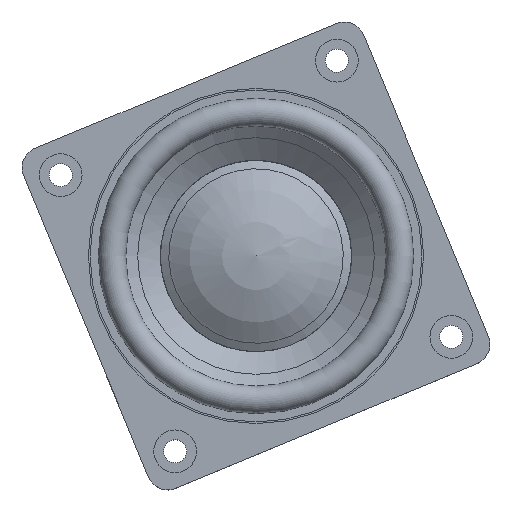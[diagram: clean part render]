
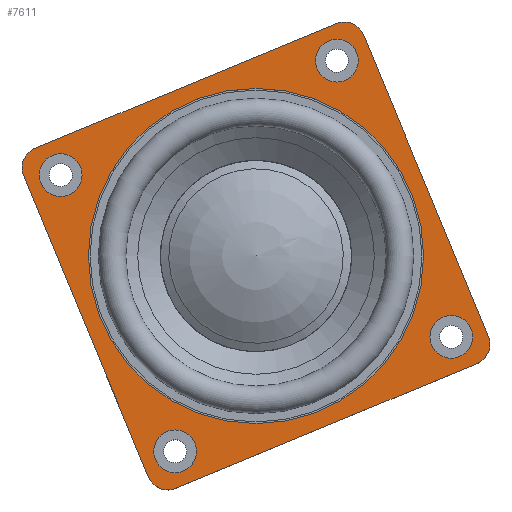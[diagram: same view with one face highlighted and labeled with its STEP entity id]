
A CAD part, top view. The second image highlights one B-rep face of the part: STEP entity #7611.
In plain terms, the highlighted planar face has unit normal (0, 0, 1).
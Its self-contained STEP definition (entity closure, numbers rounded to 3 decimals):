
#523=FACE_BOUND('',#1295,.T.);
#524=FACE_BOUND('',#1296,.T.);
#525=FACE_BOUND('',#1297,.T.);
#526=FACE_BOUND('',#1298,.T.);
#527=FACE_BOUND('',#1299,.T.);
#837=FACE_OUTER_BOUND('',#1294,.T.);
#1294=EDGE_LOOP('',(#6692,#6693,#6694,#6695,#6696,#6697,#6698,#6699));
#1295=EDGE_LOOP('',(#6700));
#1296=EDGE_LOOP('',(#6701));
#1297=EDGE_LOOP('',(#6702));
#1298=EDGE_LOOP('',(#6703));
#1299=EDGE_LOOP('',(#6704));
#1870=LINE('',#14616,#2434);
#1871=LINE('',#14620,#2435);
#1872=LINE('',#14624,#2436);
#1873=LINE('',#14627,#2437);
#2434=VECTOR('',#10287,49.65);
#2435=VECTOR('',#10290,49.65);
#2436=VECTOR('',#10293,49.65);
#2437=VECTOR('',#10296,49.65);
#2839=CIRCLE('',#8375,25.5);
#2840=CIRCLE('',#8377,3.175);
#2841=CIRCLE('',#8378,3.175);
#2842=CIRCLE('',#8379,3.175);
#2843=CIRCLE('',#8380,3.175);
#2844=CIRCLE('',#8381,3.25);
#2845=CIRCLE('',#8382,3.25);
#2846=CIRCLE('',#8383,3.25);
#2847=CIRCLE('',#8384,3.25);
#3575=VERTEX_POINT('',#14608);
#3576=VERTEX_POINT('',#14612);
#3577=VERTEX_POINT('',#14613);
#3578=VERTEX_POINT('',#14615);
#3579=VERTEX_POINT('',#14617);
#3580=VERTEX_POINT('',#14619);
#3581=VERTEX_POINT('',#14621);
#3582=VERTEX_POINT('',#14623);
#3583=VERTEX_POINT('',#14625);
#3584=VERTEX_POINT('',#14628);
#3585=VERTEX_POINT('',#14630);
#3586=VERTEX_POINT('',#14632);
#3587=VERTEX_POINT('',#14634);
#4657=EDGE_CURVE('',#3575,#3575,#2839,.T.);
#4658=EDGE_CURVE('',#3576,#3577,#2840,.T.);
#4659=EDGE_CURVE('',#3577,#3578,#1870,.T.);
#4660=EDGE_CURVE('',#3578,#3579,#2841,.T.);
#4661=EDGE_CURVE('',#3579,#3580,#1871,.T.);
#4662=EDGE_CURVE('',#3580,#3581,#2842,.T.);
#4663=EDGE_CURVE('',#3581,#3582,#1872,.T.);
#4664=EDGE_CURVE('',#3582,#3583,#2843,.T.);
#4665=EDGE_CURVE('',#3583,#3576,#1873,.T.);
#4666=EDGE_CURVE('',#3584,#3584,#2844,.T.);
#4667=EDGE_CURVE('',#3585,#3585,#2845,.T.);
#4668=EDGE_CURVE('',#3586,#3586,#2846,.T.);
#4669=EDGE_CURVE('',#3587,#3587,#2847,.T.);
#6692=ORIENTED_EDGE('',*,*,#4658,.T.);
#6693=ORIENTED_EDGE('',*,*,#4659,.T.);
#6694=ORIENTED_EDGE('',*,*,#4660,.T.);
#6695=ORIENTED_EDGE('',*,*,#4661,.T.);
#6696=ORIENTED_EDGE('',*,*,#4662,.T.);
#6697=ORIENTED_EDGE('',*,*,#4663,.T.);
#6698=ORIENTED_EDGE('',*,*,#4664,.T.);
#6699=ORIENTED_EDGE('',*,*,#4665,.T.);
#6700=ORIENTED_EDGE('',*,*,#4657,.F.);
#6701=ORIENTED_EDGE('',*,*,#4666,.F.);
#6702=ORIENTED_EDGE('',*,*,#4667,.F.);
#6703=ORIENTED_EDGE('',*,*,#4668,.F.);
#6704=ORIENTED_EDGE('',*,*,#4669,.F.);
#7261=PLANE('',#8376);
#7611=ADVANCED_FACE('',(#837,#523,#524,#525,#526,#527),#7261,.T.);
#8375=AXIS2_PLACEMENT_3D('',#14610,#10281,#10282);
#8376=AXIS2_PLACEMENT_3D('',#14611,#10283,#10284);
#8377=AXIS2_PLACEMENT_3D('',#14614,#10285,#10286);
#8378=AXIS2_PLACEMENT_3D('',#14618,#10288,#10289);
#8379=AXIS2_PLACEMENT_3D('',#14622,#10291,#10292);
#8380=AXIS2_PLACEMENT_3D('',#14626,#10294,#10295);
#8381=AXIS2_PLACEMENT_3D('',#14629,#10297,#10298);
#8382=AXIS2_PLACEMENT_3D('',#14631,#10299,#10300);
#8383=AXIS2_PLACEMENT_3D('',#14633,#10301,#10302);
#8384=AXIS2_PLACEMENT_3D('',#14635,#10303,#10304);
#10281=DIRECTION('center_axis',(0.,0.,1.));
#10282=DIRECTION('ref_axis',(1.,0.,0.));
#10283=DIRECTION('center_axis',(0.,0.,1.));
#10284=DIRECTION('ref_axis',(1.,0.,0.));
#10285=DIRECTION('center_axis',(0.,0.,1.));
#10286=DIRECTION('ref_axis',(0.924,0.383,0.));
#10287=DIRECTION('',(-0.924,-0.383,0.));
#10288=DIRECTION('center_axis',(0.,0.,1.));
#10289=DIRECTION('ref_axis',(-0.383,0.924,0.));
#10290=DIRECTION('',(0.383,-0.924,0.));
#10291=DIRECTION('center_axis',(0.,0.,1.));
#10292=DIRECTION('ref_axis',(-0.924,-0.383,0.));
#10293=DIRECTION('',(0.924,0.383,0.));
#10294=DIRECTION('center_axis',(0.,0.,1.));
#10295=DIRECTION('ref_axis',(0.383,-0.924,0.));
#10296=DIRECTION('',(-0.383,0.924,0.));
#10297=DIRECTION('center_axis',(0.,0.,1.));
#10298=DIRECTION('ref_axis',(1.,0.,0.));
#10299=DIRECTION('center_axis',(0.,0.,1.));
#10300=DIRECTION('ref_axis',(0.,1.,0.));
#10301=DIRECTION('center_axis',(0.,0.,1.));
#10302=DIRECTION('ref_axis',(-1.,0.,0.));
#10303=DIRECTION('center_axis',(0.,0.,1.));
#10304=DIRECTION('ref_axis',(0.,-1.,0.));
#14608=CARTESIAN_POINT('',(-25.5,0.,3.5));
#14610=CARTESIAN_POINT('Origin',(0.,0.,3.5));
#14611=CARTESIAN_POINT('Origin',(0.,0.,3.5));
#14612=CARTESIAN_POINT('',(16.369,33.65,3.5));
#14613=CARTESIAN_POINT('',(12.22,35.369,3.5));
#14614=CARTESIAN_POINT('Origin',(13.435,32.435,3.5));
#14615=CARTESIAN_POINT('',(-33.65,16.369,3.5));
#14616=CARTESIAN_POINT('',(12.22,35.369,3.5));
#14617=CARTESIAN_POINT('',(-35.369,12.22,3.5));
#14618=CARTESIAN_POINT('Origin',(-32.435,13.435,3.5));
#14619=CARTESIAN_POINT('',(-16.369,-33.65,3.5));
#14620=CARTESIAN_POINT('',(-35.369,12.22,3.5));
#14621=CARTESIAN_POINT('',(-12.22,-35.369,3.5));
#14622=CARTESIAN_POINT('Origin',(-13.435,-32.435,3.5));
#14623=CARTESIAN_POINT('',(33.65,-16.369,3.5));
#14624=CARTESIAN_POINT('',(-12.22,-35.369,3.5));
#14625=CARTESIAN_POINT('',(35.369,-12.22,3.5));
#14626=CARTESIAN_POINT('Origin',(32.435,-13.435,3.5));
#14627=CARTESIAN_POINT('',(35.369,-12.22,3.5));
#14628=CARTESIAN_POINT('',(9.062,29.724,3.5));
#14629=CARTESIAN_POINT('Origin',(12.312,29.724,3.5));
#14630=CARTESIAN_POINT('',(-29.724,9.062,3.5));
#14631=CARTESIAN_POINT('Origin',(-29.724,12.312,3.5));
#14632=CARTESIAN_POINT('',(-9.062,-29.724,3.5));
#14633=CARTESIAN_POINT('Origin',(-12.312,-29.724,3.5));
#14634=CARTESIAN_POINT('',(29.724,-9.062,3.5));
#14635=CARTESIAN_POINT('Origin',(29.724,-12.312,3.5));
